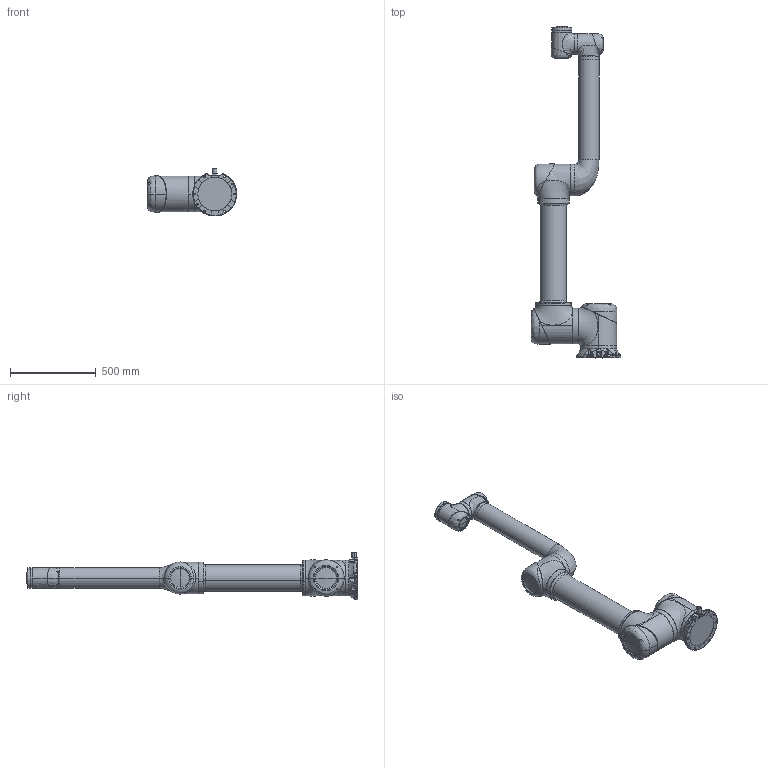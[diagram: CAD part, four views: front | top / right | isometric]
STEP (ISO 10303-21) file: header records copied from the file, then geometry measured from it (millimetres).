
FILE_DESCRIPTION (( 'STEP AP214' ), '1' );
FILE_NAME ('S35-1650_儂迮忒.STEP', '2024-05-28T03:33:56', ( '' ), ( '' ), 'SwSTEP 2.0', 'SolidWorks 2022', '' );
FILE_SCHEMA (( 'AUTOMOTIVE_DESIGN' ));
Length unit declared in the file: millimetre
Products named in the file (8): 底座_S30; 末端壳; 本体转接头; J1轴-S30; J2轴—S30; J3轴—S30; J4轴_S30; S35-1650_机械手
Assembly tree (7 placements, depth 2):
  S35-1650_机械手
    底座_S30
    J1轴-S30
    J2轴—S30
    J3轴—S30
    J4轴_S30
    本体转接头
    末端壳
Bounding box: 520.76 x 1932.2 x 279.3 mm (x, y, z)
Volume: 54479904.1 mm3; surface area: 2384671.1 mm2
Topology: 19 solids, 108 shells, 2204 faces, 5161 edges, 3237 vertices
Faces by surface type: cylinder 789, bspline 676, plane 465, torus 219, cone 35, sphere 20
Entity records: 173044 total; most frequent: CARTESIAN_POINT 125371, ORIENTED_EDGE 10310, DIRECTION 8511, EDGE_CURVE 5155, AXIS2_PLACEMENT_3D 3586, VERTEX_POINT 3237, EDGE_LOOP 2308, ADVANCED_FACE 2204
